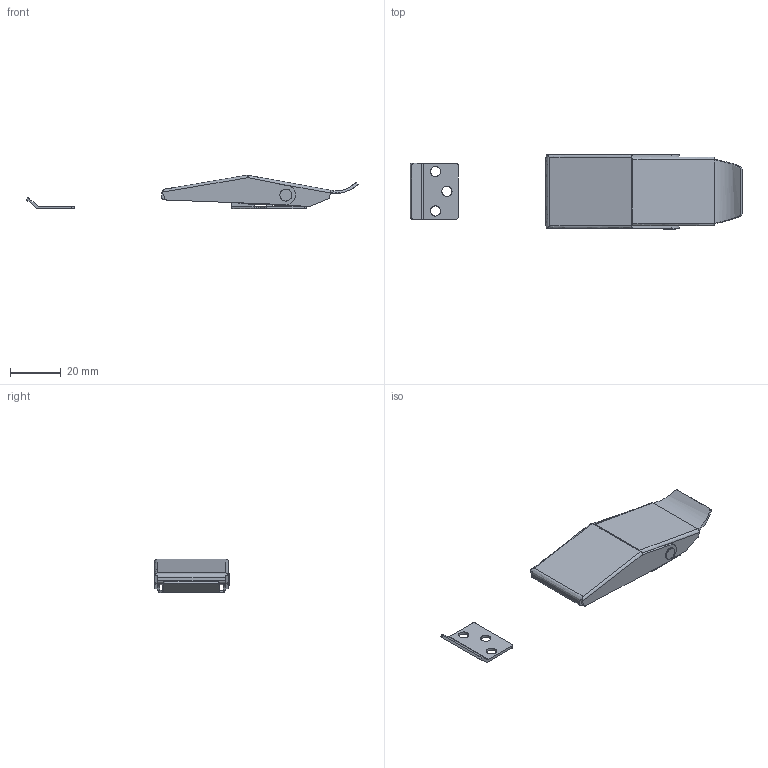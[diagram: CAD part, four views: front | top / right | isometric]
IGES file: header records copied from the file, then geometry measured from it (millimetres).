
Global section: file name: DR_C-M11; native system: Autodesk Inventor 2015; preprocessor: unknown; author: Administrator; date: 20180301.103947; units: millimetre
Bounding box: 130.35 x 29.6 x 13.26 mm (x, y, z)
Volume: 5229.5 mm3; surface area: 11011.1 mm2
Topology: 4 solids, 4 shells, 170 faces, 464 edges, 304 vertices
Faces by surface type: bspline 170
